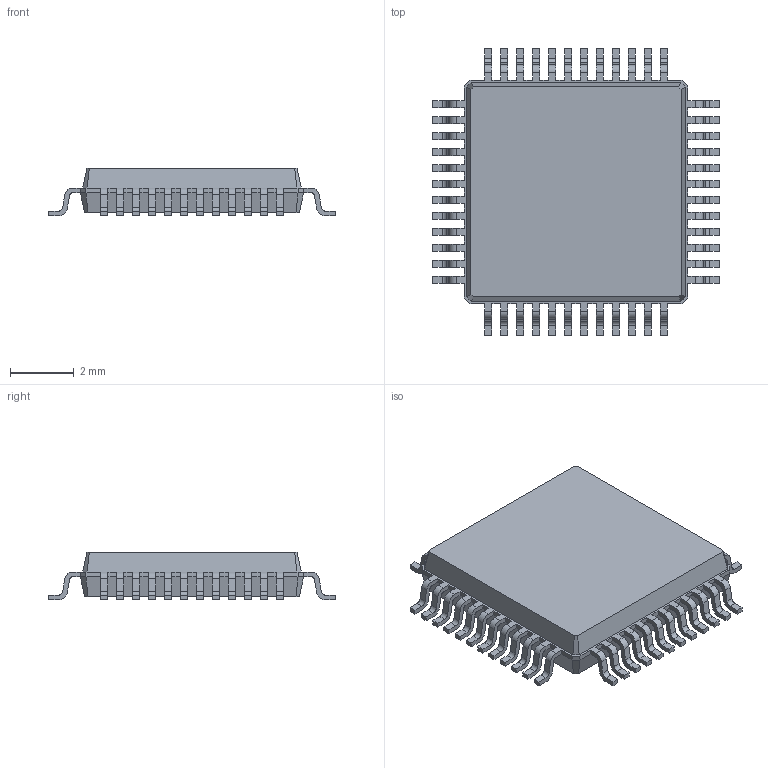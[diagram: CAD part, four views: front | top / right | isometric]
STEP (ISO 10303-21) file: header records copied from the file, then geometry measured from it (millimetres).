
FILE_DESCRIPTION(/* description */ ('STEP AP242 Edition 2','CAx-IF Rec.Pracs.---Representation and Presentation of Product Manufacturing Information (PMI)---4.0---2014-10-13','CAx-IF Rec.Pracs.---3D Tessellated Geometry---0.4---2014-09-14','2;1','CAx-IF Rec.Pracs.---User Defined Attributes---1.5---2016-08-15'),/* implementation_level */ '2;1');
FILE_NAME(/* name */ 'v2_assembly - LQFP-48_7x7mm_P0.5mm',/* time_stamp */ '2026-05-19T16:26:05Z',/* author */ (''),/* organization */ (''),/* preprocessor_version */ 'ST-DEVELOPER v20',/* originating_system */ 'ONSHAPE BY PTC INC, 1.215',/* authorisation */ ' ');
FILE_SCHEMA (('AP242_MANAGED_MODEL_BASED_3D_ENGINEERING_MIM_LF { 1 0 10303 442 3 1 4 }'));
Length unit declared in the file: metre
Products named in the file (1): LQFP-48_7x7mm_P0.5mm
Bounding box: 9 x 9 x 1.5 mm (x, y, z)
Volume: 67.4 mm3; surface area: 182.6 mm2
Topology: 1 solids, 1 shells, 651 faces, 1840 edges, 1192 vertices
Faces by surface type: plane 459, cylinder 192
Entity records: 21408 total; most frequent: CARTESIAN_POINT 3684, ORIENTED_EDGE 3680, DIRECTION 3528, EDGE_CURVE 1840, LINE 1456, VECTOR 1456, VERTEX_POINT 1192, AXIS2_PLACEMENT_3D 1036
